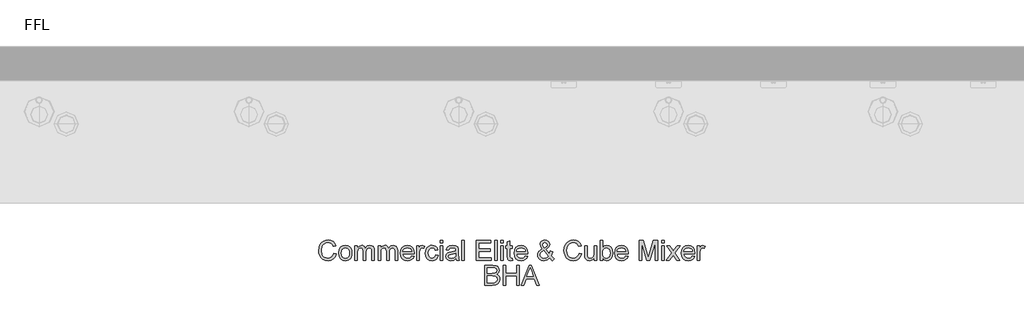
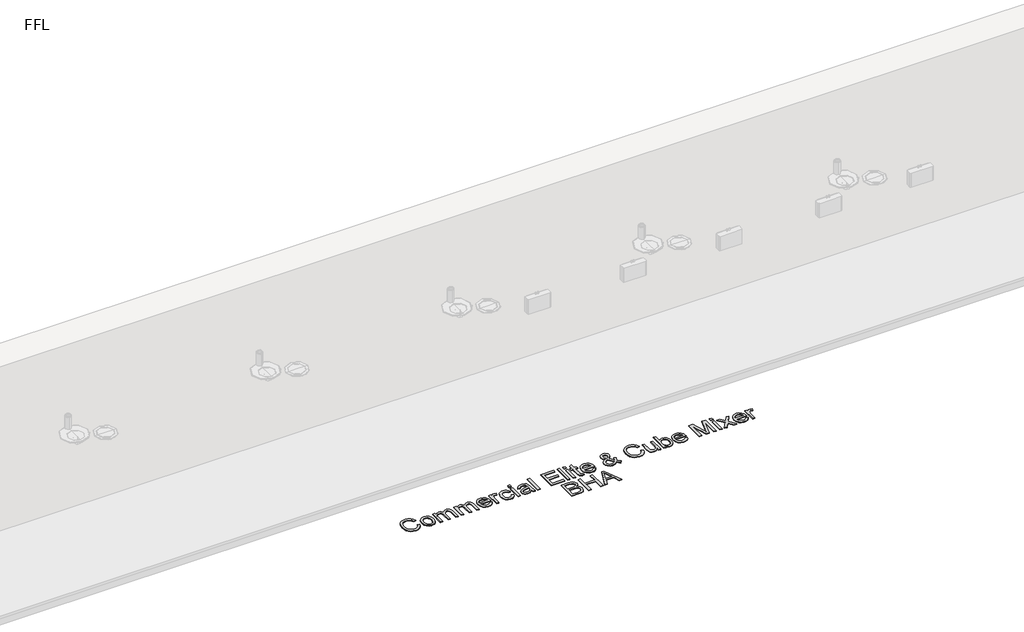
# One storey, part 7 of 13: 1 proxy.
"""IFC4 building model written with IfcOpenShell, lengths in millimetres."""

from ifc_helpers import new_model, si_unit, origin, origin_with_axes, place, context, project, spatial, polyline, outline, extrude, element, save

model = new_model("IFC4")

# Units and contexts
model_context = context("Model", 3, world=origin())
ifc_project = project(units=[si_unit("LENGTHUNIT", "METRE", prefix="MILLI")], contexts=[model_context])

# Site, building, storey
site = spatial("IfcSite", under=ifc_project)
building = spatial("IfcBuilding", under=site)
storey = spatial("IfcBuildingStorey", under=building, Name="FFL", Elevation=0.0)

# Proxy
placement = place(None, origin())
element("IfcBuildingElementProxy", 1, Name="150mm Arial", ObjectType="150mm Arial", at=placement, inside=storey, context=model_context, shape_type="SweptSolid", body=[
    extrude(outline(polyline([(14851.4185533, -4463.6981691), (14869.8800917, -4468.4577845), (14861.3614619, -4489.9707052), (14847.9930725, -4505.6873518), (14830.4329764, -4515.301234), (14809.3392264, -4518.5058614), (14787.9254643, -4516.0809816), (14770.9197552, -4508.8063422), (14757.8848994, -4496.934347), (14748.3836975, -4480.7173999), (14742.5829163, -4461.6518951), (14740.6493225, -4441.2342268), (14742.8353201, -4419.6987701), (14749.3933129, -4401.1020153), (14759.9807528, -4386.0344071), (14774.2550917, -4375.0863903), (14791.1841783, -4368.4202244), (14809.735861, -4366.1981691), (14829.977748, -4369.0737701), (14846.7130244, -4377.700573), (14859.4188538, -4391.5467268), (14867.5723994, -4410.0803807), (14849.110861, -4414.4794191), (14842.7106206, -4401.0163783), (14833.9666302, -4391.7811018), (14822.7707167, -4386.4400561), (14809.0147071, -4384.6597076), (14793.1583369, -4386.6338662), (14780.1324956, -4392.5563422), (14770.2481807, -4401.8051403), (14763.8163898, -4413.7582653), (14759.110861, -4441.1981691), (14764.6817744, -4473.0010537), (14771.8031687, -4484.8775561), (14782.0255244, -4493.3195633), (14794.2806326, -4498.3631331), (14807.5002841, -4500.044323), (14822.9104403, -4497.7546595), (14835.751486, -4490.8856691), (14845.446498, -4479.5094672), (14851.4185533, -4463.6981691)])), origin_with_axes(), (0.0, 0.0, 1.0), 5.0),
    extrude(outline(polyline([(14888.3416302, -4461.9673999), (14892.3350196, -4435.8165585), (14904.3151879, -4417.4361499), (14919.1168706, -4408.4307412), (14936.8392264, -4405.4289383), (14956.2337576, -4409.0842869), (14971.7250437, -4420.0503326), (14981.8797913, -4437.4616908), (14985.2647071, -4460.4529768), (14983.7683129, -4479.1038182), (14979.2791302, -4493.3015345), (14971.9278682, -4503.9340465), (14961.845236, -4511.8892749), (14949.8695749, -4516.8517148), (14936.8392264, -4518.5058614), (14917.2103201, -4514.8640345), (14901.7370629, -4503.9385537), (14891.6904884, -4486.1621114), (14888.3416302, -4461.9673999)]), holes=[polyline([(14906.8031687, -4461.9313422), (14908.9395869, -4478.6395754), (14915.3488417, -4490.543121), (14924.9942744, -4497.6690225), (14936.8392264, -4500.044323), (14948.6300917, -4497.6555008), (14958.2574956, -4490.4890345), (14964.6667504, -4478.4277364), (14966.8031687, -4461.3544191), (14964.6532288, -4445.1329648), (14958.2034091, -4433.3916787), (14948.5624836, -4426.2657773), (14936.8392264, -4423.8904768), (14924.9942744, -4426.2567629), (14915.3488417, -4433.355621), (14908.9395869, -4445.2321234), (14906.8031687, -4461.9313422)])]), origin_with_axes(), (0.0, 0.0, 1.0), 5.0),
    extrude(outline(polyline([(15006.0339379, -4516.1981691), (15006.0339379, -4407.7366307), (15024.4954764, -4407.7366307), (15024.4954764, -4425.5851883), (15037.1877841, -4410.9637941), (15055.2526879, -4405.4289383), (15065.5201158, -4406.8396956), (15073.7502841, -4411.0719672), (15083.9185533, -4426.8832653), (15098.3236014, -4410.7925201), (15116.5147071, -4405.4289383), (15130.3924115, -4407.6600081), (15140.6553321, -4414.3532172), (15146.9969788, -4425.6888542), (15149.110861, -4441.8472076), (15149.110861, -4516.1981691), (15130.6493225, -4516.1981691), (15130.6493225, -4449.7798999), (15128.9365821, -4434.3652364), (15122.7346591, -4426.7750922), (15112.1877841, -4423.8904768), (15102.1862816, -4425.7384335), (15094.032736, -4431.2823037), (15088.6105605, -4440.9006932), (15086.8031687, -4454.9722076), (15086.8031687, -4516.1981691), (15068.3416302, -4516.1981691), (15068.3416302, -4447.7246114), (15064.0687937, -4429.839996), (15058.430272, -4425.3778566), (15050.0603802, -4423.8904768), (15036.3945148, -4427.856823), (15027.3079764, -4439.4673999), (15024.4954764, -4461.4986499), (15024.4954764, -4516.1981691), (15006.0339379, -4516.1981691)])), origin_with_axes(), (0.0, 0.0, 1.0), 5.0),
    extrude(outline(polyline([(15176.8031687, -4516.1981691), (15176.8031687, -4407.7366307), (15195.2647071, -4407.7366307), (15195.2647071, -4425.5851883), (15207.9570148, -4410.9637941), (15226.0219187, -4405.4289383), (15236.2893466, -4406.8396956), (15244.5195148, -4411.0719672), (15254.6877841, -4426.8832653), (15269.0928321, -4410.7925201), (15287.2839379, -4405.4289383), (15301.1616422, -4407.6600081), (15311.4245629, -4414.3532172), (15317.7662095, -4425.6888542), (15319.8800917, -4441.8472076), (15319.8800917, -4516.1981691), (15301.4185533, -4516.1981691), (15301.4185533, -4449.7798999), (15299.7058129, -4434.3652364), (15293.5038898, -4426.7750922), (15282.9570148, -4423.8904768), (15272.9555124, -4425.7384335), (15264.8019667, -4431.2823037), (15259.3797913, -4440.9006932), (15257.5723994, -4454.9722076), (15257.5723994, -4516.1981691), (15239.110861, -4516.1981691), (15239.110861, -4447.7246114), (15234.8380244, -4429.839996), (15229.1995028, -4425.3778566), (15220.829611, -4423.8904768), (15207.1637456, -4427.856823), (15198.0772071, -4439.4673999), (15195.2647071, -4461.4986499), (15195.2647071, -4516.1981691), (15176.8031687, -4516.1981691)])), origin_with_axes(), (0.0, 0.0, 1.0), 5.0),
    extrude(outline(polyline([(15423.5098994, -4483.8904768), (15441.610861, -4486.1981691), (15435.0889259, -4499.8369912), (15424.6817744, -4510.0323037), (15410.6237816, -4516.387472), (15393.1493225, -4518.5058614), (15371.4876639, -4514.8505129), (15354.8199956, -4503.8844672), (15344.1919908, -4486.3198638), (15340.6493225, -4462.8688422), (15344.2280485, -4438.6290585), (15354.9642264, -4420.5010537), (15371.4065341, -4409.1969672), (15392.1036494, -4405.4289383), (15412.1562336, -4409.1879528), (15428.1793706, -4420.464996), (15438.6856807, -4438.5569432), (15442.1877841, -4462.7606691), (15442.079611, -4467.7366307), (15359.110861, -4467.7366307), (15362.306474, -4481.5557412), (15369.7298514, -4491.714996), (15380.4434932, -4497.9619912), (15393.5098994, -4500.044323), (15411.610861, -4496.1861499), (15423.5098994, -4483.8904768)]), holes=[polyline([(15359.110861, -4449.2750922), (15423.7262456, -4449.2750922), (15421.2292504, -4439.5214864), (15416.3344187, -4432.544323), (15405.5711975, -4426.0539383), (15392.0315341, -4423.8904768), (15379.587123, -4425.6167388), (15369.2971591, -4430.7955249), (15362.1442143, -4438.8679408), (15359.110861, -4449.2750922)])]), origin_with_axes(), (0.0, 0.0, 1.0), 5.0),
    extrude(outline(polyline([(15460.6493225, -4516.1981691), (15460.6493225, -4407.7366307), (15476.8031687, -4407.7366307), (15476.8031687, -4423.7823037), (15488.2695148, -4408.9986499), (15499.8079764, -4405.4289383), (15518.3416302, -4411.1260537), (15512.1757648, -4427.6765345), (15499.1949956, -4423.8904768), (15488.7562937, -4427.5323037), (15482.1036494, -4437.6284576), (15479.110861, -4459.1909576), (15479.110861, -4516.1981691), (15460.6493225, -4516.1981691)])), origin_with_axes(), (0.0, 0.0, 1.0), 5.0),
    extrude(outline(polyline([(15599.110861, -4476.9673999), (15617.5723994, -4479.2750922), (15612.4251639, -4495.6948638), (15602.7526879, -4508.1032172), (15589.4654283, -4515.9052004), (15573.4738417, -4518.5058614), (15553.8359211, -4514.8775561), (15538.4798514, -4503.9926403), (15528.5684932, -4486.3288783), (15525.2647071, -4462.3640345), (15530.907736, -4431.6969672), (15538.0291302, -4420.1990706), (15548.1072552, -4411.9914383), (15560.1640461, -4407.0695633), (15573.2214379, -4405.4289383), (15588.820897, -4407.6825441), (15601.2923514, -4414.4433614), (15610.2391663, -4425.3508133), (15615.2647071, -4440.044323), (15596.8031687, -4442.3520153), (15588.2394667, -4428.5238903), (15573.3656687, -4423.8904768), (15561.4350797, -4426.1711258), (15551.9654283, -4433.013073), (15545.7860413, -4444.7859095), (15543.7262456, -4461.8592268), (15545.7409691, -4479.1624119), (15551.7851398, -4490.9758133), (15561.0835172, -4497.7771956), (15572.860861, -4500.044323), (15582.4206566, -4498.6290585), (15590.2586975, -4494.3832653), (15595.9603201, -4487.1987701), (15599.110861, -4476.9673999)])), origin_with_axes(), (0.0, 0.0, 1.0), 5.0),
    extrude(outline(polyline([(15633.7262456, -4386.9673999), (15633.7262456, -4368.5058614), (15652.1877841, -4368.5058614), (15652.1877841, -4386.9673999), (15633.7262456, -4386.9673999)])), origin_with_axes(), (0.0, 0.0, 1.0), 5.0),
    extrude(outline(polyline([(15633.7262456, -4516.1981691), (15633.7262456, -4407.7366307), (15652.1877841, -4407.7366307), (15652.1877841, -4516.1981691), (15633.7262456, -4516.1981691)])), origin_with_axes(), (0.0, 0.0, 1.0), 5.0),
    extrude(outline(polyline([(15749.110861, -4502.3520153), (15731.2082167, -4514.8640345), (15711.4305725, -4518.5058614), (15696.0023874, -4516.3153566), (15684.6216783, -4509.7438422), (15677.6039499, -4499.7648758), (15675.2647071, -4487.3520153), (15678.798361, -4472.7486499), (15688.0832167, -4462.1476883), (15701.0098994, -4456.089996), (15716.9834571, -4453.3135537), (15749.0026879, -4446.9673999), (15749.110861, -4442.856823), (15747.8398273, -4434.6176403), (15744.0267264, -4429.2270153), (15735.4990821, -4425.2246114), (15723.6180725, -4423.8904768), (15704.9401879, -4427.4421595), (15696.0339379, -4440.044323), (15677.5723994, -4437.7366307), (15685.5591783, -4419.7077845), (15701.6409091, -4409.1428807), (15725.9978802, -4405.4289383), (15748.3716783, -4408.7101883), (15761.0098994, -4416.949371), (15766.6709571, -4429.4794191), (15767.5723994, -4445.6332653), (15767.5723994, -4468.6020153), (15768.5098994, -4500.6753326), (15772.1877841, -4516.1981691), (15753.7262456, -4516.1981691), (15749.110861, -4502.3520153)]), holes=[polyline([(15749.110861, -4465.4289383), (15719.3272071, -4471.089996), (15703.4437937, -4474.0827845), (15696.2502841, -4478.950573), (15693.7262456, -4486.0539383), (15699.2250437, -4496.0419191), (15715.360861, -4500.044323), (15734.0387456, -4495.6272557), (15746.0820148, -4484.9361499), (15749.0026879, -4470.6573037), (15749.110861, -4465.4289383)])]), origin_with_axes(), (0.0, 0.0, 1.0), 5.0),
    extrude(outline(polyline([(15792.9570148, -4516.1981691), (15792.9570148, -4368.5058614), (15811.4185533, -4368.5058614), (15811.4185533, -4516.1981691), (15792.9570148, -4516.1981691)])), origin_with_axes(), (0.0, 0.0, 1.0), 5.0),
    extrude(outline(polyline([(15899.110861, -4516.1981691), (15899.110861, -4368.5058614), (16005.2647071, -4368.5058614), (16005.2647071, -4386.9673999), (15917.5723994, -4386.9673999), (15917.5723994, -4430.8135537), (16000.6493225, -4430.8135537), (16000.6493225, -4449.2750922), (15917.5723994, -4449.2750922), (15917.5723994, -4497.7366307), (16007.5723994, -4497.7366307), (16007.5723994, -4516.1981691), (15899.110861, -4516.1981691)])), origin_with_axes(), (0.0, 0.0, 1.0), 5.0),
    extrude(outline(polyline([(16032.9570148, -4516.1981691), (16032.9570148, -4368.5058614), (16051.4185533, -4368.5058614), (16051.4185533, -4516.1981691), (16032.9570148, -4516.1981691)])), origin_with_axes(), (0.0, 0.0, 1.0), 5.0),
    extrude(outline(polyline([(16079.110861, -4516.1981691), (16079.110861, -4407.7366307), (16097.5723994, -4407.7366307), (16097.5723994, -4516.1981691), (16079.110861, -4516.1981691)])), origin_with_axes(), (0.0, 0.0, 1.0), 5.0),
    extrude(outline(polyline([(16079.110861, -4386.9673999), (16079.110861, -4368.5058614), (16097.5723994, -4368.5058614), (16097.5723994, -4386.9673999), (16079.110861, -4386.9673999)])), origin_with_axes(), (0.0, 0.0, 1.0), 5.0),
    extrude(outline(polyline([(16164.4954764, -4500.8015345), (16166.8031687, -4516.7390345), (16152.9930725, -4518.5058614), (16137.5243225, -4515.4409576), (16129.8079764, -4507.4000922), (16127.5723994, -4486.450573), (16127.5723994, -4426.1981691), (16113.7262456, -4426.1981691), (16113.7262456, -4407.7366307), (16127.5723994, -4407.7366307), (16127.5723994, -4381.3784576), (16146.0339379, -4370.5250922), (16146.0339379, -4407.7366307), (16164.4954764, -4407.7366307), (16164.4954764, -4426.1981691), (16146.0339379, -4426.1981691), (16146.0339379, -4485.9097076), (16147.0074956, -4495.4289383), (16150.1625437, -4498.8003326), (16156.454611, -4500.044323), (16164.4954764, -4500.8015345)])), origin_with_axes(), (0.0, 0.0, 1.0), 5.0),
    extrude(outline(polyline([(16258.8945148, -4483.8904768), (16276.9954764, -4486.1981691), (16270.4735413, -4499.8369912), (16260.0663898, -4510.0323037), (16246.008397, -4516.387472), (16228.5339379, -4518.5058614), (16206.8722792, -4514.8505129), (16190.204611, -4503.8844672), (16179.5766062, -4486.3198638), (16176.0339379, -4462.8688422), (16179.6126639, -4438.6290585), (16190.3488417, -4420.5010537), (16206.7911494, -4409.1969672), (16227.4882648, -4405.4289383), (16247.540849, -4409.1879528), (16263.563986, -4420.464996), (16274.0702961, -4438.5569432), (16277.5723994, -4462.7606691), (16277.4642264, -4467.7366307), (16194.4954764, -4467.7366307), (16197.6910893, -4481.5557412), (16205.1144667, -4491.714996), (16215.8281086, -4497.9619912), (16228.8945148, -4500.044323), (16246.9954764, -4496.1861499), (16258.8945148, -4483.8904768)]), holes=[polyline([(16194.4954764, -4449.2750922), (16259.110861, -4449.2750922), (16256.6138658, -4439.5214864), (16251.7190341, -4432.544323), (16240.9558129, -4426.0539383), (16227.4161494, -4423.8904768), (16214.9717384, -4425.6167388), (16204.6817744, -4430.7955249), (16197.5288297, -4438.8679408), (16194.4954764, -4449.2750922)])]), origin_with_axes(), (0.0, 0.0, 1.0), 5.0),
    extrude(outline(polyline([(16438.4257648, -4497.9529768), (16418.8464379, -4513.3676403), (16395.9498033, -4518.5058614), (16375.5772071, -4514.7017749), (16359.892111, -4503.2895153), (16351.8061735, -4490.1555008), (16349.110861, -4475.5611499), (16351.2788297, -4462.6254528), (16357.782736, -4451.0058614), (16368.5955365, -4440.7113903), (16383.6901879, -4431.7510537), (16370.7995629, -4413.0731691), (16367.5723994, -4399.2270153), (16370.1144667, -4386.7600682), (16377.7406687, -4376.0419191), (16389.2160292, -4368.6591066), (16403.3055725, -4366.1981691), (16416.7100196, -4368.5509335), (16427.4281687, -4375.6092268), (16434.4594187, -4385.9667989), (16436.8031687, -4398.2173999), (16435.0678922, -4408.5028566), (16429.8620629, -4418.013073), (16409.0387456, -4434.7077845), (16435.7574956, -4467.9890345), (16443.7262456, -4447.544323), (16462.1877841, -4451.5467268), (16449.1348994, -4481.9433614), (16471.4185533, -4504.2991307), (16457.5723994, -4518.5058614), (16438.4257648, -4497.9529768)]), holes=[polyline([(16399.6998033, -4423.0611499), (16414.8800917, -4411.6128326), (16418.3416302, -4400.7414383), (16413.7803321, -4389.1488903), (16402.3680725, -4384.6597076), (16390.7034091, -4389.1128326), (16386.0339379, -4399.9842268), (16387.6204764, -4406.7450441), (16392.4161494, -4414.263073), (16399.6998033, -4423.0611499)]), polyline([(16426.0579764, -4484.6476883), (16393.1012456, -4443.5058614), (16372.8187937, -4458.9746114), (16367.5723994, -4473.1092268), (16369.3662696, -4481.8171595), (16374.7478802, -4490.8496114), (16383.4197552, -4497.7456451), (16395.0844187, -4500.044323), (16412.0495629, -4495.7534576), (16426.0579764, -4484.6476883)])]), origin_with_axes(), (0.0, 0.0, 1.0), 5.0),
    extrude(outline(polyline([(16653.7262456, -4463.6981691), (16672.1877841, -4468.4577845), (16663.6691542, -4489.9707052), (16650.3007648, -4505.6873518), (16632.7406687, -4515.301234), (16611.6469187, -4518.5058614), (16590.2331566, -4516.0809816), (16573.2274475, -4508.8063422), (16560.1925917, -4496.934347), (16550.6913898, -4480.7173999), (16544.8906086, -4461.6518951), (16542.9570148, -4441.2342268), (16545.1430124, -4419.6987701), (16551.7010052, -4401.1020153), (16562.2884451, -4386.0344071), (16576.5627841, -4375.0863903), (16593.4918706, -4368.4202244), (16612.0435533, -4366.1981691), (16632.2854403, -4369.0737701), (16649.0207167, -4377.700573), (16661.7265461, -4391.5467268), (16669.8800917, -4410.0803807), (16651.4185533, -4414.4794191), (16645.0183129, -4401.0163783), (16636.2743225, -4391.7811018), (16625.0784091, -4386.4400561), (16611.3223994, -4384.6597076), (16595.4660292, -4386.6338662), (16582.4401879, -4392.5563422), (16572.555873, -4401.8051403), (16566.1240821, -4413.7582653), (16561.4185533, -4441.1981691), (16566.9894667, -4473.0010537), (16574.110861, -4484.8775561), (16584.3332167, -4493.3195633), (16596.5883249, -4498.3631331), (16609.8079764, -4500.044323), (16625.2181326, -4497.7546595), (16638.0591783, -4490.8856691), (16647.7541903, -4479.5094672), (16653.7262456, -4463.6981691)])), origin_with_axes(), (0.0, 0.0, 1.0), 5.0),
    extrude(outline(polyline([(16764.4954764, -4516.1981691), (16764.4954764, -4497.5563422), (16750.0363417, -4513.2684816), (16731.1781687, -4518.5058614), (16713.8163898, -4514.8279768), (16701.845236, -4505.5972076), (16696.3464379, -4492.0034576), (16695.2647071, -4474.839996), (16695.2647071, -4407.7366307), (16713.7262456, -4407.7366307), (16713.7262456, -4466.1500922), (16714.8440341, -4484.9722076), (16722.1457167, -4496.0238903), (16735.9017264, -4500.044323), (16751.3163898, -4495.933746), (16761.5026879, -4484.7378326), (16764.4954764, -4464.1669191), (16764.4954764, -4407.7366307), (16782.9570148, -4407.7366307), (16782.9570148, -4516.1981691), (16764.4954764, -4516.1981691)])), origin_with_axes(), (0.0, 0.0, 1.0), 5.0),
    extrude(outline(polyline([(16826.8031687, -4516.1981691), (16808.3416302, -4516.1981691), (16808.3416302, -4368.5058614), (16826.8031687, -4368.5058614), (16826.8031687, -4423.277496), (16839.7298514, -4409.8910778), (16855.7935533, -4405.4289383), (16874.2911494, -4409.449371), (16888.642111, -4420.7534576), (16897.4582167, -4438.3315826), (16900.6493225, -4460.3448037), (16897.3455365, -4484.9902364), (16887.4341783, -4503.325573), (16872.8894066, -4514.7107893), (16855.6853802, -4518.5058614), (16839.2701158, -4513.6110297), (16826.8031687, -4498.9265345), (16826.8031687, -4516.1981691)]), holes=[polyline([(16826.8031687, -4461.2101883), (16828.0651879, -4476.606823), (16831.8512456, -4487.027496), (16841.5237216, -4496.7901162), (16854.0988417, -4500.044323), (16864.7538898, -4497.6464864), (16873.8584571, -4490.4529768), (16880.1054523, -4478.5088662), (16882.1877841, -4461.8592268), (16880.1910893, -4444.966198), (16874.2010052, -4433.1573037), (16865.3803922, -4426.2071835), (16854.892111, -4423.8904768), (16844.2370629, -4426.2883133), (16835.1324956, -4433.481823), (16828.8855004, -4445.2095874), (16826.8031687, -4461.2101883)])]), origin_with_axes(), (0.0, 0.0, 1.0), 5.0),
    extrude(outline(polyline([(16997.3560533, -4483.8904768), (17015.4570148, -4486.1981691), (17008.9350797, -4499.8369912), (16998.5279283, -4510.0323037), (16984.4699355, -4516.387472), (16966.9954764, -4518.5058614), (16945.3338177, -4514.8505129), (16928.6661494, -4503.8844672), (16918.0381446, -4486.3198638), (16914.4954764, -4462.8688422), (16918.0742023, -4438.6290585), (16928.8103802, -4420.5010537), (16945.2526879, -4409.1969672), (16965.9498033, -4405.4289383), (16986.0023874, -4409.1879528), (17002.0255244, -4420.464996), (17012.5318345, -4438.5569432), (17016.0339379, -4462.7606691), (17015.9257648, -4467.7366307), (16932.9570148, -4467.7366307), (16936.1526278, -4481.5557412), (16943.5760052, -4491.714996), (16954.289647, -4497.9619912), (16967.3560533, -4500.044323), (16985.4570148, -4496.1861499), (16997.3560533, -4483.8904768)]), holes=[polyline([(16932.9570148, -4449.2750922), (16997.5723994, -4449.2750922), (16995.0754042, -4439.5214864), (16990.1805725, -4432.544323), (16979.4173514, -4426.0539383), (16965.8776879, -4423.8904768), (16953.4332768, -4425.6167388), (16943.1433129, -4430.7955249), (16935.9903682, -4438.8679408), (16932.9570148, -4449.2750922)])]), origin_with_axes(), (0.0, 0.0, 1.0), 5.0),
    extrude(outline(polyline([(17094.4954764, -4516.1981691), (17094.4954764, -4368.5058614), (17126.2623033, -4368.5058614), (17156.4786494, -4472.6044191), (17162.5723994, -4494.3472076), (17169.1709571, -4470.8015345), (17198.8824956, -4368.5058614), (17230.6493225, -4368.5058614), (17230.6493225, -4516.1981691), (17212.1877841, -4516.1981691), (17212.1877841, -4386.9673999), (17175.0844187, -4516.1981691), (17150.0603802, -4516.1981691), (17112.9570148, -4386.9673999), (17112.9570148, -4516.1981691), (17094.4954764, -4516.1981691)])), origin_with_axes(), (0.0, 0.0, 1.0), 5.0),
    extrude(outline(polyline([(17260.6493225, -4516.1981691), (17260.6493225, -4407.7366307), (17279.110861, -4407.7366307), (17279.110861, -4516.1981691), (17260.6493225, -4516.1981691)])), origin_with_axes(), (0.0, 0.0, 1.0), 5.0),
    extrude(outline(polyline([(17260.6493225, -4386.9673999), (17260.6493225, -4368.5058614), (17279.110861, -4368.5058614), (17279.110861, -4386.9673999), (17260.6493225, -4386.9673999)])), origin_with_axes(), (0.0, 0.0, 1.0), 5.0),
    extrude(outline(polyline([(17295.2647071, -4516.1981691), (17334.7118225, -4461.6789383), (17297.5723994, -4407.7366307), (17319.7839379, -4407.7366307), (17337.704611, -4433.6981691), (17346.0699956, -4445.9577845), (17353.3175917, -4435.933746), (17373.7262456, -4407.7366307), (17395.9377841, -4407.7366307), (17356.923361, -4461.6789383), (17394.4954764, -4516.1981691), (17372.2839379, -4516.1981691), (17349.6757648, -4483.4217268), (17345.5291302, -4477.4361499), (17317.4762456, -4516.1981691), (17295.2647071, -4516.1981691)])), origin_with_axes(), (0.0, 0.0, 1.0), 5.0),
    extrude(outline(polyline([(17486.5868225, -4483.8904768), (17504.6877841, -4486.1981691), (17498.165849, -4499.8369912), (17487.7586975, -4510.0323037), (17473.7007047, -4516.387472), (17456.2262456, -4518.5058614), (17434.5645869, -4514.8505129), (17417.8969187, -4503.8844672), (17407.2689139, -4486.3198638), (17403.7262456, -4462.8688422), (17407.3049716, -4438.6290585), (17418.0411494, -4420.5010537), (17434.4834571, -4409.1969672), (17455.1805725, -4405.4289383), (17475.2331566, -4409.1879528), (17491.2562937, -4420.464996), (17501.7626038, -4438.5569432), (17505.2647071, -4462.7606691), (17505.1565341, -4467.7366307), (17422.1877841, -4467.7366307), (17425.383397, -4481.5557412), (17432.8067744, -4491.714996), (17443.5204163, -4497.9619912), (17456.5868225, -4500.044323), (17474.6877841, -4496.1861499), (17486.5868225, -4483.8904768)]), holes=[polyline([(17422.1877841, -4449.2750922), (17486.8031687, -4449.2750922), (17484.3061735, -4439.5214864), (17479.4113417, -4432.544323), (17468.6481206, -4426.0539383), (17455.1084571, -4423.8904768), (17442.6640461, -4425.6167388), (17432.3740821, -4430.7955249), (17425.2211374, -4438.8679408), (17422.1877841, -4449.2750922)])]), origin_with_axes(), (0.0, 0.0, 1.0), 5.0),
    extrude(outline(polyline([(17523.7262456, -4516.1981691), (17523.7262456, -4407.7366307), (17539.8800917, -4407.7366307), (17539.8800917, -4423.7823037), (17551.3464379, -4408.9986499), (17562.8848994, -4405.4289383), (17581.4185533, -4411.1260537), (17575.2526879, -4427.6765345), (17562.2719187, -4423.8904768), (17551.8332167, -4427.5323037), (17545.1805725, -4437.6284576), (17542.1877841, -4459.1909576), (17542.1877841, -4516.1981691), (17523.7262456, -4516.1981691)])), origin_with_axes(), (0.0, 0.0, 1.0), 5.0),
    extrude(outline(polyline([(15961.4185533, -4698.5058614), (15961.4185533, -4550.8135537), (16017.7767264, -4550.8135537), (16045.3788898, -4555.1585057), (16054.6547312, -4560.6708254), (16061.6769667, -4568.5178807), (16067.5723994, -4587.4121114), (16062.6144667, -4604.6657172), (16047.6324956, -4617.7366307), (16058.0937336, -4623.199371), (16065.8236014, -4631.5106691), (16070.5967384, -4642.1206451), (16072.1877841, -4654.4794191), (16067.8428321, -4674.3291787), (16057.079611, -4688.4637941), (16041.0159091, -4695.9637941), (16017.3440341, -4698.5058614), (15961.4185533, -4698.5058614)]), holes=[polyline([(15979.8800917, -4610.8135537), (16013.5940341, -4610.8135537), (16033.2815341, -4609.2270153), (16045.126486, -4602.3940826), (16049.110861, -4590.3688422), (16045.3969187, -4578.325573), (16034.7598994, -4571.2041787), (16011.0339379, -4569.2750922), (15979.8800917, -4569.2750922), (15979.8800917, -4610.8135537)]), polyline([(15979.8800917, -4680.044323), (16017.7406687, -4680.044323), (16031.4425917, -4679.3231691), (16043.0351398, -4675.3027364), (16050.7154283, -4667.0996114), (16053.7262456, -4654.6597076), (16050.1925917, -4640.308746), (16038.7442744, -4631.7450441), (16015.9377841, -4629.2750922), (15979.8800917, -4629.2750922), (15979.8800917, -4680.044323)])]), origin_with_axes(), (0.0, 0.0, 1.0), 5.0),
    extrude(outline(polyline([(16097.5723994, -4698.5058614), (16097.5723994, -4550.8135537), (16116.0339379, -4550.8135537), (16116.0339379, -4610.8135537), (16194.4954764, -4610.8135537), (16194.4954764, -4550.8135537), (16212.9570148, -4550.8135537), (16212.9570148, -4698.5058614), (16194.4954764, -4698.5058614), (16194.4954764, -4629.2750922), (16116.0339379, -4629.2750922), (16116.0339379, -4698.5058614), (16097.5723994, -4698.5058614)])), origin_with_axes(), (0.0, 0.0, 1.0), 5.0),
    extrude(outline(polyline([(16228.0651879, -4698.5058614), (16287.0195148, -4550.8135537), (16302.7406687, -4550.8135537), (16361.6949956, -4698.5058614), (16342.1877841, -4698.5058614), (16325.2767264, -4652.3520153), (16264.4473994, -4652.3520153), (16247.5723994, -4698.5058614), (16228.0651879, -4698.5058614)]), holes=[polyline([(16271.2262456, -4633.8904768), (16318.5339379, -4633.8904768), (16305.2286494, -4597.5803807), (16294.8800917, -4569.2750922), (16285.6853802, -4594.4073037), (16271.2262456, -4633.8904768)])]), origin_with_axes(), (0.0, 0.0, 1.0), 5.0),
])

save(model, "model.ifc")
